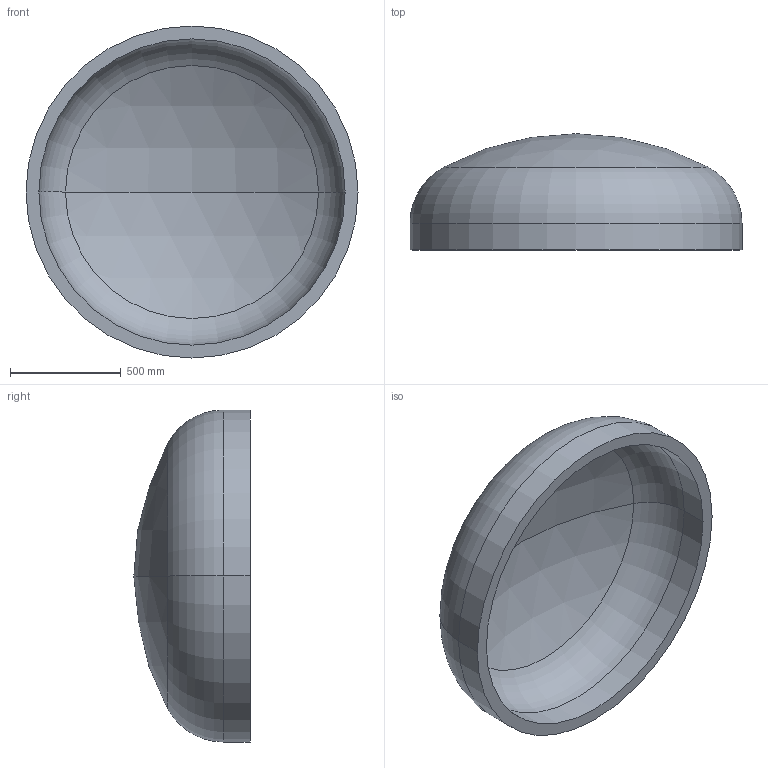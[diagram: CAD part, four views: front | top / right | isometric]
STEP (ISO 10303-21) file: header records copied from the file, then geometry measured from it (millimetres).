
FILE_DESCRIPTION (( 'STEP AP203' ), '1' );
FILE_NAME ('DIN 28013 Korbbogenform_-_Boden DIN 28013 - 1500 x 120 - I - s=58.step', '2016-07-01T10:50:25', ( '' ), ( '' ), 'SwSTEP 2.0', 'SolidWorks 2013', '' );
FILE_SCHEMA (( 'CONFIG_CONTROL_DESIGN' ));
Length unit declared in the file: millimetre
Products named in the file (1): DIN 28013 Korbbogenform_-_Boden DIN 28013 - 1500 x 120 - I - s=58
Bounding box: 1500 x 525.09 x 1500 mm (x, y, z)
Volume: 166420858 mm3; surface area: 6008444.5 mm2
Topology: 1 solids, 1 shells, 13 faces, 24 edges, 14 vertices
Faces by surface type: torus 4, cylinder 4, sphere 4, plane 1
Entity records: 407 total; most frequent: DIRECTION 72, CARTESIAN_POINT 52, ORIENTED_EDGE 48, AXIS2_PLACEMENT_3D 34, EDGE_CURVE 24, CIRCLE 20, VERTEX_POINT 14, EDGE_LOOP 14
